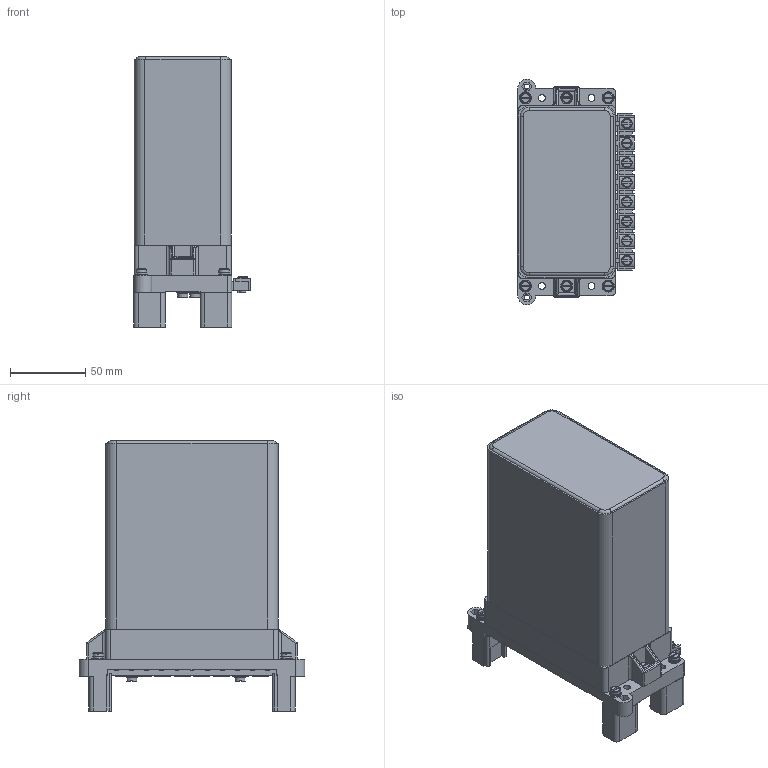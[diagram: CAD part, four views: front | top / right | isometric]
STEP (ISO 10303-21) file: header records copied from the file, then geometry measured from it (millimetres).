
FILE_DESCRIPTION(('STEP AP214'), '1');
FILE_NAME('ÁÊÆÈ.647649.005 - ÐÑÒ11Ì ï.ï', '', ('UNSPECIFIED'), ('UNSPECIFIED'), 'ASCON STEP Converter 1.3', 'ASCON Math Kernel', '');
FILE_SCHEMA(('AUTOMOTIVE_DESIGN { 1 0 10303 214 3 1 1}'));
Length unit declared in the file: millimetre
Products named in the file (1): 購つ.647649.005
Bounding box: 77.36 x 150 x 179.5 mm (x, y, z)
Volume: 1162379.1 mm3; surface area: 117722.6 mm2
Topology: 1 solids, 1 shells, 3059 faces, 8541 edges, 5598 vertices
Faces by surface type: plane 2155, cylinder 788, torus 68, cone 36, bspline 12
Full cylindrical faces by diameter (mm): 3.5 x2, 4 x30, 4.3 x6, 4.5 x24, 5 x2, 7.5 x2, 8 x8
Entity records: 126909 total; most frequent: CARTESIAN_POINT 23069, ORIENTED_EDGE 16814, DIRECTION 16027, EDGE_CURVE 8407, LINE 6187, VECTOR 6187, VERTEX_POINT 5598, AXIS2_PLACEMENT_3D 4920
